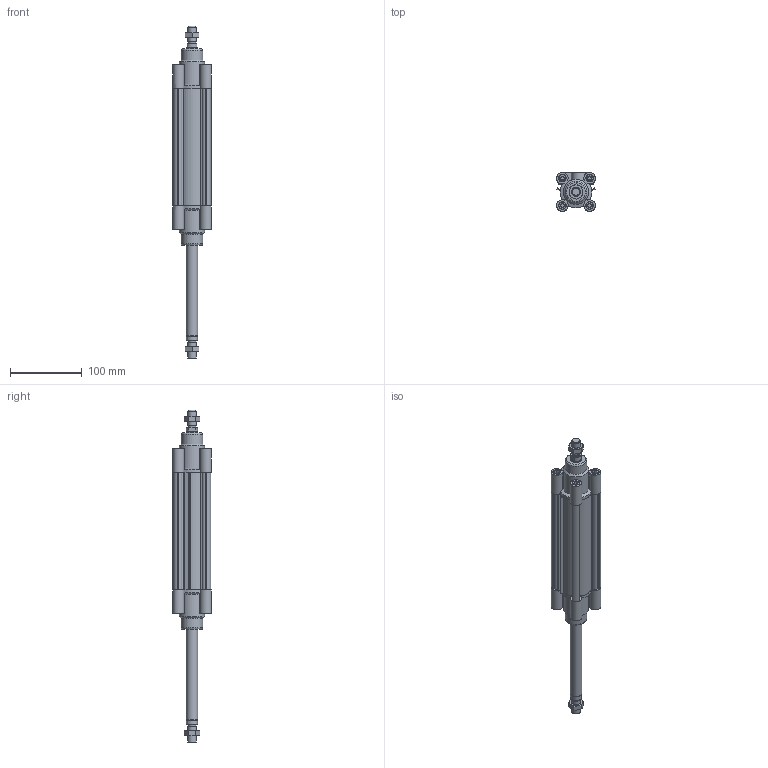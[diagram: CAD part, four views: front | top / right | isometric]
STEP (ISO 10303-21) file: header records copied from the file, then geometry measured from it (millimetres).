
FILE_DESCRIPTION((''),'2;1');
FILE_NAME('I:\Area Tecnica\Disegni\VARIE-3D\Componenti\ECOLIGHT\02\stp\139#_40_0125_02.iam.stp','2012-01-28T09:38:51',(''),(''),'Autodesk Inventor 2012','Autodesk Inventor 2012','');
FILE_SCHEMA(('AUTOMOTIVE_DESIGN { 1 0 10303 214 1 1 1 1 }'));
Length unit declared in the file: millimetre
Products named in the file (5): 139#_40_0125_02; CPL040_004-125; CPL040-001-01; CPL_40SP_0125; 1320_40_18F
Assembly tree (6 placements, depth 2):
  139#_40_0125_02
    CPL040_004-125
    CPL040-001-01  x2
    CPL_40SP_0125
    1320_40_18F  x2
Bounding box: 54 x 54 x 463 mm (x, y, z)
Volume: 378565.1 mm3; surface area: 159021.5 mm2
Topology: 6 solids, 6 shells, 351 faces, 860 edges, 564 vertices
Faces by surface type: plane 211, cylinder 98, cone 40, torus 2
Full cylindrical faces by diameter (mm): 5 x8, 5.5 x4, 8 x2, 10 x8, 10.5 x10, 10.8 x2, 11.6 x2, 12 x2, 15.5 x2, 16 x4, 30 x2, 35 x2, 40 x4
Entity records: 7104 total; most frequent: CARTESIAN_POINT 1295, DIRECTION 1162, ORIENTED_EDGE 1084, EDGE_CURVE 542, AXIS2_PLACEMENT_3D 413, VERTEX_POINT 380, VECTOR 336, LINE 336
